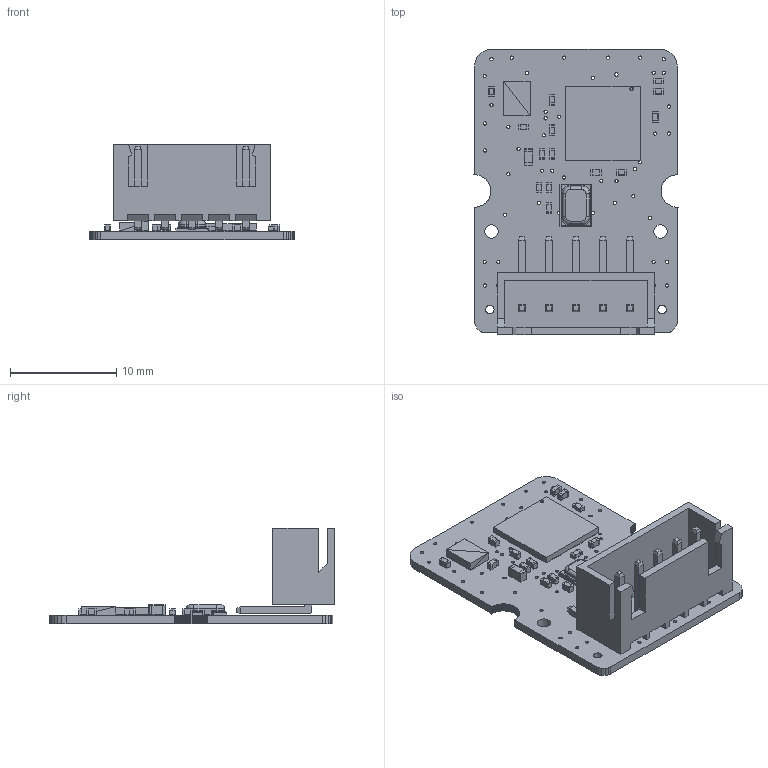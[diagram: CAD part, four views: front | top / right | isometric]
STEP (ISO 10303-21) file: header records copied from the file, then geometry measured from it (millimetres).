
FILE_DESCRIPTION(('for SolidWorks'),'2;1');
FILE_NAME('C:\Users\Pratik\Desktop\PCBArtists\PROJECTS\pcbartists_190AB_decibelmeter_pcbartists_jan22\hardware\rev3\production_rev3\3dmodel_dbmeter_rev3\JST dbmeter rev3.step', '2023-09-20T00:26:36',('Pratik'),(''), 'Open CASCADE STEP processor 6.6','DipTrace','Unknown');
FILE_SCHEMA(('AUTOMOTIVE_DESIGN { 1 0 10303 214 1 1 1 1 }'));
Length unit declared in the file: millimetre
Products named in the file (9): PCB_JST_dbmeter_rev3; Board_JST_dbmeter_rev3; CAP_0402_M; JST_-_XH_-_Thru_(R)_-_5Pin_-_2.54mm; IND_0603_M; RES_0402_M; STM32G431CBU6; ICS-43432--3DModel-STEP-269445; Open CASCADE STEP translator 6.6 1.20
Assembly tree (20 placements, depth 2):
  PCB_JST_dbmeter_rev3
    Board_JST_dbmeter_rev3
    CAP_0402_M  x12
    JST_-_XH_-_Thru_(R)_-_5Pin_-_2.54mm
    IND_0603_M
    RES_0402_M  x2
    STM32G431CBU6
    ICS-43432--3DModel-STEP-269445
    Open CASCADE STEP translator 6.6 1.20
Bounding box: 19.22 x 26.86 x 8.98 mm (x, y, z)
Volume: 442.1 mm3; surface area: 2300.1 mm2
Topology: 98 solids, 131 shells, 1624 faces, 3790 edges, 2313 vertices
Faces by surface type: plane 1007, cylinder 448, sphere 120, bspline 40, torus 9
Full cylindrical faces by diameter (mm): 0.25 x2, 0.305 x59, 0.35 x1, 0.5 x1, 0.8 x2, 0.9 x5, 1.05 x1, 1.27 x2, 1.65 x1
Entity records: 34990 total; most frequent: CARTESIAN_POINT 7278, ORIENTED_EDGE 5000, DIRECTION 4780, EDGE_CURVE 2518, LINE 1822, VECTOR 1822, VERTEX_POINT 1641, AXIS2_PLACEMENT_3D 1479
